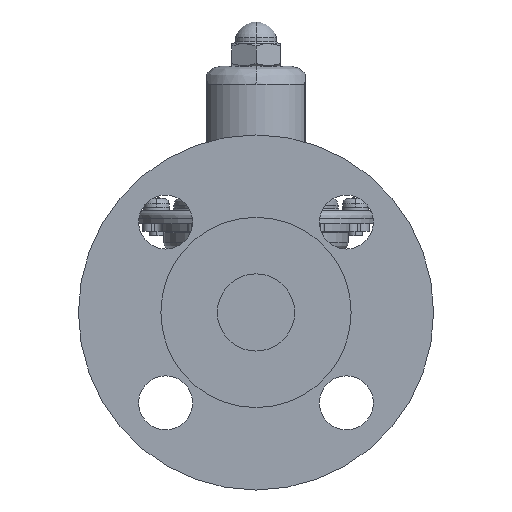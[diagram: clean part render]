
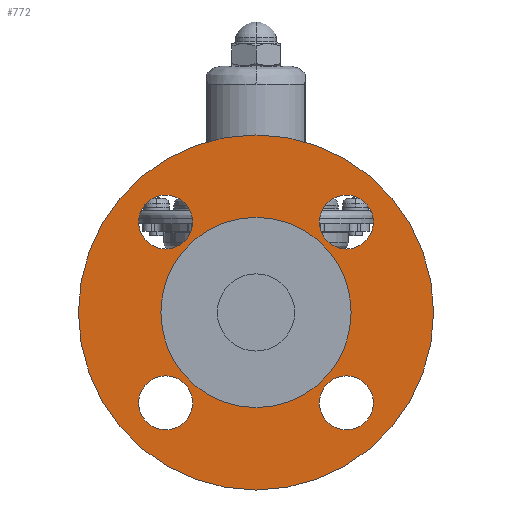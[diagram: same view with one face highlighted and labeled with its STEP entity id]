
A CAD part, left-side view. The second image highlights one B-rep face of the part: STEP entity #772.
In plain terms, the highlighted planar face has unit normal (-1, 0, 0).
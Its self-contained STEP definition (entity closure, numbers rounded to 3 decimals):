
#772=ADVANCED_FACE('',(#4779,#4780,#4781,#4782,#4783,#4784),#4778,.T.);
#4778=PLANE('',#8817);
#4779=FACE_OUTER_BOUND('',#8818,.T.);
#4780=FACE_BOUND('',#8819,.T.);
#4781=FACE_BOUND('',#8820,.T.);
#4782=FACE_BOUND('',#8821,.T.);
#4783=FACE_BOUND('',#8822,.T.);
#4784=FACE_BOUND('',#8823,.T.);
#8814=CARTESIAN_POINT('',(-96.5,-118.253,-135.));
#8815=DIRECTION('',(-1.,0.,0.));
#8816=DIRECTION('',(0.,0.,1.));
#8817=AXIS2_PLACEMENT_3D('',#8814,#8815,#8816);
#8818=EDGE_LOOP('',(#11489,#11490));
#8819=EDGE_LOOP('',(#11491,#11492));
#8820=EDGE_LOOP('',(#11493,#11494));
#8821=EDGE_LOOP('',(#11495,#11496));
#8822=EDGE_LOOP('',(#11497,#11498));
#8823=EDGE_LOOP('',(#11499,#11500));
#11489=ORIENTED_EDGE('',*,*,#13004,.F.);
#11490=ORIENTED_EDGE('',*,*,#13005,.F.);
#11491=ORIENTED_EDGE('',*,*,#13006,.T.);
#11492=ORIENTED_EDGE('',*,*,#13007,.T.);
#11493=ORIENTED_EDGE('',*,*,#13008,.T.);
#11494=ORIENTED_EDGE('',*,*,#13009,.T.);
#11495=ORIENTED_EDGE('',*,*,#13010,.T.);
#11496=ORIENTED_EDGE('',*,*,#13011,.T.);
#11497=ORIENTED_EDGE('',*,*,#13012,.T.);
#11498=ORIENTED_EDGE('',*,*,#13013,.T.);
#11499=ORIENTED_EDGE('',*,*,#13014,.F.);
#11500=ORIENTED_EDGE('',*,*,#13015,.F.);
#13004=EDGE_CURVE('',#20270,#20271,#20272,.T.);
#13005=EDGE_CURVE('',#20271,#20270,#20278,.T.);
#13006=EDGE_CURVE('',#20284,#20285,#20286,.T.);
#13007=EDGE_CURVE('',#20285,#20284,#20292,.T.);
#13008=EDGE_CURVE('',#20298,#20299,#20300,.T.);
#13009=EDGE_CURVE('',#20299,#20298,#20306,.T.);
#13010=EDGE_CURVE('',#20312,#20313,#20314,.T.);
#13011=EDGE_CURVE('',#20313,#20312,#20320,.T.);
#13012=EDGE_CURVE('',#20326,#20327,#20328,.T.);
#13013=EDGE_CURVE('',#20327,#20326,#20334,.T.);
#13014=EDGE_CURVE('',#20340,#20341,#20342,.T.);
#13015=EDGE_CURVE('',#20341,#20340,#20348,.T.);
#20270=VERTEX_POINT('',#26358);
#20271=VERTEX_POINT('',#26359);
#20272=CIRCLE('',#26363,62.5);
#20278=CIRCLE('',#26367,62.5);
#20284=VERTEX_POINT('',#26368);
#20285=VERTEX_POINT('',#26369);
#20286=CIRCLE('',#26373,9.5);
#20292=CIRCLE('',#26377,9.5);
#20298=VERTEX_POINT('',#26378);
#20299=VERTEX_POINT('',#26379);
#20300=CIRCLE('',#26383,9.5);
#20306=CIRCLE('',#26387,9.5);
#20312=VERTEX_POINT('',#26388);
#20313=VERTEX_POINT('',#26389);
#20314=CIRCLE('',#26393,9.5);
#20320=CIRCLE('',#26397,9.5);
#20326=VERTEX_POINT('',#26398);
#20327=VERTEX_POINT('',#26399);
#20328=CIRCLE('',#26403,9.5);
#20334=CIRCLE('',#26407,9.5);
#20340=VERTEX_POINT('',#26408);
#20341=VERTEX_POINT('',#26409);
#20342=CIRCLE('',#26413,33.5);
#20348=CIRCLE('',#26417,33.5);
#26358=CARTESIAN_POINT('',(-96.5,0.,-62.5));
#26359=CARTESIAN_POINT('',(-96.5,0.,62.5));
#26360=CARTESIAN_POINT('',(-96.5,0.,0.));
#26361=DIRECTION('',(1.,0.,0.));
#26362=DIRECTION('',(0.,0.,1.));
#26363=AXIS2_PLACEMENT_3D('',#26360,#26361,#26362);
#26364=CARTESIAN_POINT('',(-96.5,0.,0.));
#26365=DIRECTION('',(1.,0.,0.));
#26366=DIRECTION('',(0.,0.,1.));
#26367=AXIS2_PLACEMENT_3D('',#26364,#26365,#26366);
#26368=CARTESIAN_POINT('',(-96.5,-31.82,-22.32));
#26369=CARTESIAN_POINT('',(-96.5,-31.82,-41.32));
#26370=CARTESIAN_POINT('',(-96.5,-31.82,-31.82));
#26371=DIRECTION('',(1.,0.,0.));
#26372=DIRECTION('',(0.,0.,1.));
#26373=AXIS2_PLACEMENT_3D('',#26370,#26371,#26372);
#26374=CARTESIAN_POINT('',(-96.5,-31.82,-31.82));
#26375=DIRECTION('',(1.,0.,0.));
#26376=DIRECTION('',(0.,0.,1.));
#26377=AXIS2_PLACEMENT_3D('',#26374,#26375,#26376);
#26378=CARTESIAN_POINT('',(-96.5,31.82,-22.32));
#26379=CARTESIAN_POINT('',(-96.5,31.82,-41.32));
#26380=CARTESIAN_POINT('',(-96.5,31.82,-31.82));
#26381=DIRECTION('',(1.,0.,0.));
#26382=DIRECTION('',(0.,0.,1.));
#26383=AXIS2_PLACEMENT_3D('',#26380,#26381,#26382);
#26384=CARTESIAN_POINT('',(-96.5,31.82,-31.82));
#26385=DIRECTION('',(1.,0.,0.));
#26386=DIRECTION('',(0.,0.,1.));
#26387=AXIS2_PLACEMENT_3D('',#26384,#26385,#26386);
#26388=CARTESIAN_POINT('',(-96.5,31.82,41.32));
#26389=CARTESIAN_POINT('',(-96.5,31.82,22.32));
#26390=CARTESIAN_POINT('',(-96.5,31.82,31.82));
#26391=DIRECTION('',(1.,0.,0.));
#26392=DIRECTION('',(0.,0.,1.));
#26393=AXIS2_PLACEMENT_3D('',#26390,#26391,#26392);
#26394=CARTESIAN_POINT('',(-96.5,31.82,31.82));
#26395=DIRECTION('',(1.,0.,0.));
#26396=DIRECTION('',(0.,0.,1.));
#26397=AXIS2_PLACEMENT_3D('',#26394,#26395,#26396);
#26398=CARTESIAN_POINT('',(-96.5,-31.82,41.32));
#26399=CARTESIAN_POINT('',(-96.5,-31.82,22.32));
#26400=CARTESIAN_POINT('',(-96.5,-31.82,31.82));
#26401=DIRECTION('',(1.,0.,0.));
#26402=DIRECTION('',(0.,0.,1.));
#26403=AXIS2_PLACEMENT_3D('',#26400,#26401,#26402);
#26404=CARTESIAN_POINT('',(-96.5,-31.82,31.82));
#26405=DIRECTION('',(1.,0.,0.));
#26406=DIRECTION('',(0.,0.,1.));
#26407=AXIS2_PLACEMENT_3D('',#26404,#26405,#26406);
#26408=CARTESIAN_POINT('',(-96.5,0.,-33.5));
#26409=CARTESIAN_POINT('',(-96.5,0.,33.5));
#26410=CARTESIAN_POINT('',(-96.5,0.,0.));
#26411=DIRECTION('',(-1.,0.,0.));
#26412=DIRECTION('',(0.,0.,1.));
#26413=AXIS2_PLACEMENT_3D('',#26410,#26411,#26412);
#26414=CARTESIAN_POINT('',(-96.5,0.,0.));
#26415=DIRECTION('',(-1.,0.,0.));
#26416=DIRECTION('',(0.,0.,1.));
#26417=AXIS2_PLACEMENT_3D('',#26414,#26415,#26416);
